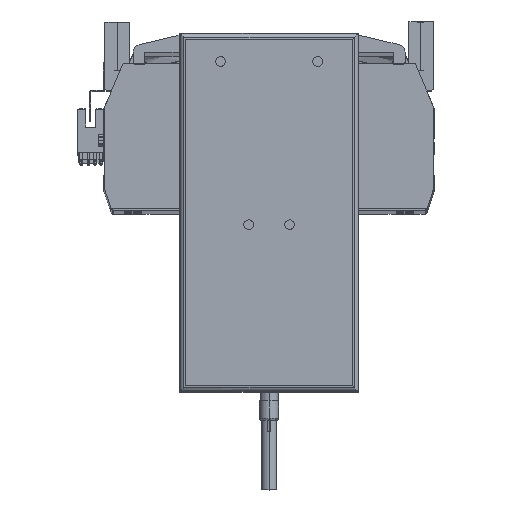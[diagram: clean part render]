
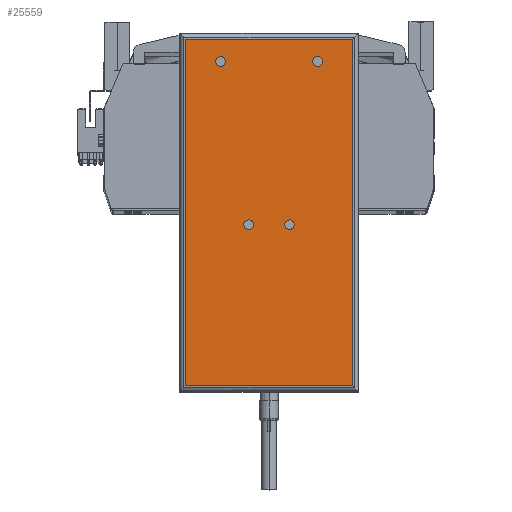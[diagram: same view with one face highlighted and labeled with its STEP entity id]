
A CAD part, top view. The second image highlights one B-rep face of the part: STEP entity #25559.
In plain terms, the highlighted planar face has unit normal (0, 0, 1) as drawn and (0, 0, -1) by its records, which use the part's own axes.
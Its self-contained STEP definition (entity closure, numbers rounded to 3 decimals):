
#1175 = ORIENTED_EDGE ( 'NONE', *, *, #45639, .T. ) ;
#1686 = EDGE_LOOP ( 'NONE', ( #46853, #48803 ) ) ;
#2225 = CARTESIAN_POINT ( 'NONE',  ( 8., -6.25, 0. ) ) ;
#2436 = CIRCLE ( 'NONE', #4466, 2.5 ) ;
#2651 = DIRECTION ( 'NONE',  ( 0., 0., -1. ) ) ;
#2809 = CARTESIAN_POINT ( 'NONE',  ( -46., -89.25, 0. ) ) ;
#3205 = CARTESIAN_POINT ( 'NONE',  ( -43., -89.25, 0. ) ) ;
#3311 = CARTESIAN_POINT ( 'NONE',  ( 13., -6.25, 0. ) ) ;
#3766 = EDGE_CURVE ( 'NONE', #33722, #13871, #52658, .T. ) ;
#4056 = CARTESIAN_POINT ( 'NONE',  ( 25., 77.75, 0. ) ) ;
#4466 = AXIS2_PLACEMENT_3D ( 'NONE', #17401, #18649, #22786 ) ;
#4512 = CARTESIAN_POINT ( 'NONE',  ( 43., 89.25, 0. ) ) ;
#4629 = EDGE_CURVE ( 'NONE', #46212, #40458, #18973, .T. ) ;
#4850 = DIRECTION ( 'NONE',  ( 0., 0., -1. ) ) ;
#5033 = DIRECTION ( 'NONE',  ( -1., 0., 0. ) ) ;
#6857 = VERTEX_POINT ( 'NONE', #9955 ) ;
#8174 = DIRECTION ( 'NONE',  ( 1., 0., 0. ) ) ;
#8188 = VERTEX_POINT ( 'NONE', #12423 ) ;
#8578 = DIRECTION ( 'NONE',  ( 0., 0., -1. ) ) ;
#9955 = CARTESIAN_POINT ( 'NONE',  ( 22.5, 77.75, 0. ) ) ;
#10041 = VECTOR ( 'NONE', #25279, 1000. ) ;
#10288 = VERTEX_POINT ( 'NONE', #3311 ) ;
#10762 = LINE ( 'NONE', #50851, #22890 ) ;
#10985 = DIRECTION ( 'NONE',  ( -1., 0., 0. ) ) ;
#11025 = ORIENTED_EDGE ( 'NONE', *, *, #27287, .F. ) ;
#11166 = AXIS2_PLACEMENT_3D ( 'NONE', #4056, #32495, #40630 ) ;
#11349 = FACE_BOUND ( 'NONE', #1686, .T. ) ;
#11925 = ORIENTED_EDGE ( 'NONE', *, *, #32447, .F. ) ;
#12423 = CARTESIAN_POINT ( 'NONE',  ( 43., -89.25, 0. ) ) ;
#12475 = AXIS2_PLACEMENT_3D ( 'NONE', #36963, #33586, #45125 ) ;
#13385 = ORIENTED_EDGE ( 'NONE', *, *, #51050, .F. ) ;
#13871 = VERTEX_POINT ( 'NONE', #30052 ) ;
#14296 = CARTESIAN_POINT ( 'NONE',  ( -43., -92.25, 0. ) ) ;
#15140 = EDGE_LOOP ( 'NONE', ( #34208, #1175, #21300, #40411 ) ) ;
#15770 = CIRCLE ( 'NONE', #38303, 2.5 ) ;
#16339 = CIRCLE ( 'NONE', #11166, 2.5 ) ;
#17250 = CIRCLE ( 'NONE', #40056, 2.5 ) ;
#17401 = CARTESIAN_POINT ( 'NONE',  ( 10.5, -6.25, 0. ) ) ;
#17643 = DIRECTION ( 'NONE',  ( 0., 0., -1. ) ) ;
#17694 = FACE_OUTER_BOUND ( 'NONE', #15140, .T. ) ;
#18649 = DIRECTION ( 'NONE',  ( 0., 0., -1. ) ) ;
#18792 = ORIENTED_EDGE ( 'NONE', *, *, #3766, .F. ) ;
#18973 = LINE ( 'NONE', #33952, #10041 ) ;
#21300 = ORIENTED_EDGE ( 'NONE', *, *, #29986, .T. ) ;
#21444 = DIRECTION ( 'NONE',  ( 0., 0., -1. ) ) ;
#22005 = VECTOR ( 'NONE', #22464, 1000. ) ;
#22464 = DIRECTION ( 'NONE',  ( 0., 1., 0. ) ) ;
#22786 = DIRECTION ( 'NONE',  ( -1., 0., 0. ) ) ;
#22890 = VECTOR ( 'NONE', #31491, 1000. ) ;
#22988 = LINE ( 'NONE', #2809, #34349 ) ;
#23434 = DIRECTION ( 'NONE',  ( -1., 0., 0. ) ) ;
#23761 = EDGE_CURVE ( 'NONE', #47597, #10288, #26802, .T. ) ;
#24031 = EDGE_LOOP ( 'NONE', ( #13385, #30409 ) ) ;
#24195 = PLANE ( 'NONE',  #38626 ) ;
#25279 = DIRECTION ( 'NONE',  ( 1., 0., 0. ) ) ;
#25371 = FACE_BOUND ( 'NONE', #44749, .T. ) ;
#25559 = ADVANCED_FACE ( 'NONE', ( #17694, #25371, #11349, #34913, #44405 ), #24195, .F. ) ;
#26069 = CARTESIAN_POINT ( 'NONE',  ( 25., 77.75, 0. ) ) ;
#26802 = CIRCLE ( 'NONE', #50111, 2.5 ) ;
#27147 = ORIENTED_EDGE ( 'NONE', *, *, #47804, .F. ) ;
#27287 = EDGE_CURVE ( 'NONE', #13871, #33722, #15770, .T. ) ;
#28780 = CARTESIAN_POINT ( 'NONE',  ( -46., -92.25, 0. ) ) ;
#28890 = AXIS2_PLACEMENT_3D ( 'NONE', #26069, #21444, #39189 ) ;
#29147 = VERTEX_POINT ( 'NONE', #3205 ) ;
#29246 = EDGE_CURVE ( 'NONE', #45999, #6857, #16339, .T. ) ;
#29986 = EDGE_CURVE ( 'NONE', #29147, #46212, #32798, .T. ) ;
#30052 = CARTESIAN_POINT ( 'NONE',  ( -13., -6.25, 0. ) ) ;
#30409 = ORIENTED_EDGE ( 'NONE', *, *, #29246, .F. ) ;
#31000 = CIRCLE ( 'NONE', #12475, 2.5 ) ;
#31491 = DIRECTION ( 'NONE',  ( 0., -1., 0. ) ) ;
#32447 = EDGE_CURVE ( 'NONE', #44351, #37745, #17250, .T. ) ;
#32495 = DIRECTION ( 'NONE',  ( 0., 0., -1. ) ) ;
#32798 = LINE ( 'NONE', #14296, #22005 ) ;
#33586 = DIRECTION ( 'NONE',  ( 0., 0., -1. ) ) ;
#33722 = VERTEX_POINT ( 'NONE', #43057 ) ;
#33952 = CARTESIAN_POINT ( 'NONE',  ( -46., 89.25, 0. ) ) ;
#34208 = ORIENTED_EDGE ( 'NONE', *, *, #46432, .T. ) ;
#34349 = VECTOR ( 'NONE', #23434, 1000. ) ;
#34913 = FACE_BOUND ( 'NONE', #35010, .T. ) ;
#35010 = EDGE_LOOP ( 'NONE', ( #27147, #11925 ) ) ;
#36224 = DIRECTION ( 'NONE',  ( 0., 0., 1. ) ) ;
#36432 = CARTESIAN_POINT ( 'NONE',  ( -22.5, 77.75, 0. ) ) ;
#36446 = CARTESIAN_POINT ( 'NONE',  ( 10.5, -6.25, 0. ) ) ;
#36963 = CARTESIAN_POINT ( 'NONE',  ( -25., 77.75, 0. ) ) ;
#37745 = VERTEX_POINT ( 'NONE', #44949 ) ;
#38303 = AXIS2_PLACEMENT_3D ( 'NONE', #41961, #17643, #50116 ) ;
#38626 = AXIS2_PLACEMENT_3D ( 'NONE', #28780, #36224, #8174 ) ;
#39189 = DIRECTION ( 'NONE',  ( -1., 0., 0. ) ) ;
#40056 = AXIS2_PLACEMENT_3D ( 'NONE', #47730, #2651, #10985 ) ;
#40411 = ORIENTED_EDGE ( 'NONE', *, *, #4629, .T. ) ;
#40458 = VERTEX_POINT ( 'NONE', #4512 ) ;
#40630 = DIRECTION ( 'NONE',  ( -1., 0., 0. ) ) ;
#41961 = CARTESIAN_POINT ( 'NONE',  ( -10.5, -6.25, 0. ) ) ;
#42488 = CARTESIAN_POINT ( 'NONE',  ( 27.5, 77.75, 0. ) ) ;
#43057 = CARTESIAN_POINT ( 'NONE',  ( -8., -6.25, 0. ) ) ;
#44351 = VERTEX_POINT ( 'NONE', #36432 ) ;
#44405 = FACE_BOUND ( 'NONE', #24031, .T. ) ;
#44749 = EDGE_LOOP ( 'NONE', ( #11025, #18792 ) ) ;
#44949 = CARTESIAN_POINT ( 'NONE',  ( -27.5, 77.75, 0. ) ) ;
#45125 = DIRECTION ( 'NONE',  ( -1., 0., 0. ) ) ;
#45639 = EDGE_CURVE ( 'NONE', #8188, #29147, #22988, .T. ) ;
#45999 = VERTEX_POINT ( 'NONE', #42488 ) ;
#46212 = VERTEX_POINT ( 'NONE', #47929 ) ;
#46432 = EDGE_CURVE ( 'NONE', #40458, #8188, #10762, .T. ) ;
#46853 = ORIENTED_EDGE ( 'NONE', *, *, #23761, .F. ) ;
#47597 = VERTEX_POINT ( 'NONE', #2225 ) ;
#47730 = CARTESIAN_POINT ( 'NONE',  ( -25., 77.75, 0. ) ) ;
#47747 = AXIS2_PLACEMENT_3D ( 'NONE', #49063, #8578, #5033 ) ;
#47804 = EDGE_CURVE ( 'NONE', #37745, #44351, #31000, .T. ) ;
#47929 = CARTESIAN_POINT ( 'NONE',  ( -43., 89.25, 0. ) ) ;
#48748 = CIRCLE ( 'NONE', #28890, 2.5 ) ;
#48803 = ORIENTED_EDGE ( 'NONE', *, *, #52642, .F. ) ;
#49063 = CARTESIAN_POINT ( 'NONE',  ( -10.5, -6.25, 0. ) ) ;
#49553 = DIRECTION ( 'NONE',  ( -1., 0., 0. ) ) ;
#50111 = AXIS2_PLACEMENT_3D ( 'NONE', #36446, #4850, #49553 ) ;
#50116 = DIRECTION ( 'NONE',  ( -1., 0., 0. ) ) ;
#50851 = CARTESIAN_POINT ( 'NONE',  ( 43., -92.25, 0. ) ) ;
#51050 = EDGE_CURVE ( 'NONE', #6857, #45999, #48748, .T. ) ;
#52642 = EDGE_CURVE ( 'NONE', #10288, #47597, #2436, .T. ) ;
#52658 = CIRCLE ( 'NONE', #47747, 2.5 ) ;
